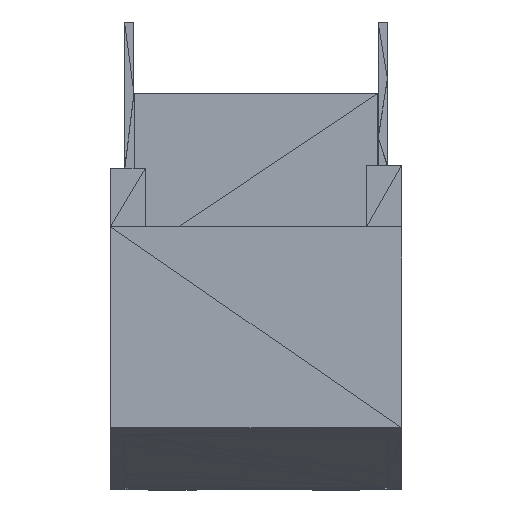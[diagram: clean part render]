
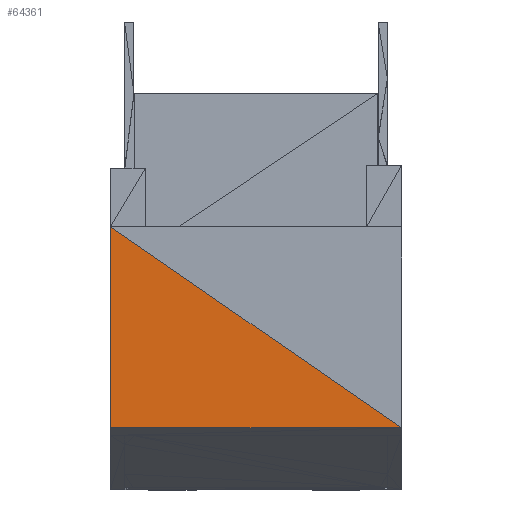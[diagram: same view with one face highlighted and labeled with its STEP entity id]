
A CAD part, top view. The second image highlights one B-rep face of the part: STEP entity #64361.
In plain terms, the highlighted planar face has unit normal (0, 0, 1).
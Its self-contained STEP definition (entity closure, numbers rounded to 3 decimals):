
#4975 = EDGE_CURVE('',#4976,#4978,#4980,.T.);
#4976 = VERTEX_POINT('',#4977);
#4977 = CARTESIAN_POINT('',(-87.31,-24.454,
    45.933));
#4978 = VERTEX_POINT('',#4979);
#4979 = CARTESIAN_POINT('',(-87.31,3.377,
    45.933));
#4980 = LINE('',#4981,#4982);
#4981 = CARTESIAN_POINT('',(-87.31,-24.454,
    45.933));
#4982 = VECTOR('',#4983,1.);
#4983 = DIRECTION('',(0.,1.,0.));
#64361 = ADVANCED_FACE('',(#64362),#64379,.T.);
#64362 = FACE_BOUND('',#64363,.T.);
#64363 = EDGE_LOOP('',(#64364,#64372,#64378));
#64364 = ORIENTED_EDGE('',*,*,#64365,.T.);
#64365 = EDGE_CURVE('',#4976,#64366,#64368,.T.);
#64366 = VERTEX_POINT('',#64367);
#64367 = CARTESIAN_POINT('',(-47.015,-24.454,
    45.933));
#64368 = LINE('',#64369,#64370);
#64369 = CARTESIAN_POINT('',(-87.31,-24.454,
    45.933));
#64370 = VECTOR('',#64371,1.);
#64371 = DIRECTION('',(1.,0.,0.));
#64372 = ORIENTED_EDGE('',*,*,#64373,.T.);
#64373 = EDGE_CURVE('',#64366,#4978,#64374,.T.);
#64374 = LINE('',#64375,#64376);
#64375 = CARTESIAN_POINT('',(-47.015,-24.454,
    45.933));
#64376 = VECTOR('',#64377,1.);
#64377 = DIRECTION('',(-0.823,0.568,0.));
#64378 = ORIENTED_EDGE('',*,*,#4975,.F.);
#64379 = PLANE('',#64380);
#64380 = AXIS2_PLACEMENT_3D('',#64381,#64382,#64383);
#64381 = CARTESIAN_POINT('',(-71.951,-15.327,
    45.933));
#64382 = DIRECTION('',(0.,0.,1.));
#64383 = DIRECTION('',(1.,0.,0.));
